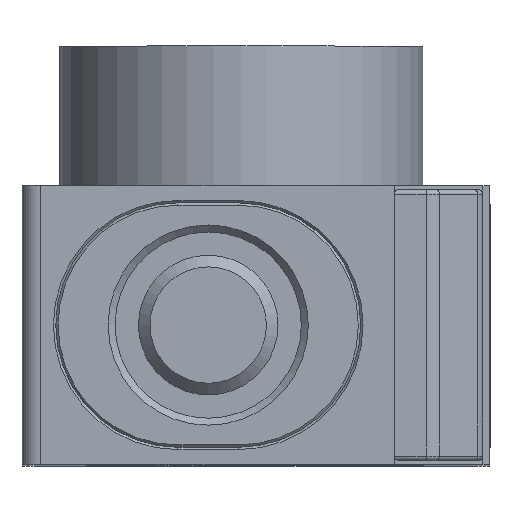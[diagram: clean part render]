
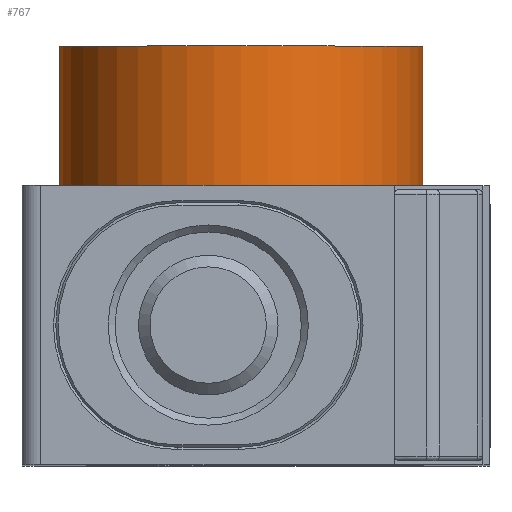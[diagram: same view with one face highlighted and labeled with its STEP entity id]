
A CAD part, top view. The second image highlights one B-rep face of the part: STEP entity #767.
In plain terms, the highlighted free-form (B-spline) face has degree [1, 2] with [2, 9] control points.
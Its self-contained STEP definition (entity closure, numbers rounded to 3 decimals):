
#719=CARTESIAN_POINT('',(-1.3,12.,27.25));
#720=CARTESIAN_POINT('',(-1.3,6.005,27.25));
#721=CARTESIAN_POINT('',(6.525,12.0,27.25));
#722=CARTESIAN_POINT('',(6.525,6.005,27.25));
#723=CARTESIAN_POINT('',(6.525,12.,18.3));
#724=CARTESIAN_POINT('',(6.525,6.005,18.3));
#725=CARTESIAN_POINT('',(6.525,12.0,9.35));
#726=CARTESIAN_POINT('',(6.525,6.005,9.35));
#727=CARTESIAN_POINT('',(-1.3,12.,9.35));
#728=CARTESIAN_POINT('',(-1.3,6.005,9.35));
#729=CARTESIAN_POINT('',(-9.125,12.0,9.35));
#730=CARTESIAN_POINT('',(-9.125,6.005,9.35));
#731=CARTESIAN_POINT('',(-9.125,12.,18.3));
#732=CARTESIAN_POINT('',(-9.125,6.005,18.3));
#733=CARTESIAN_POINT('',(-9.125,12.0,27.25));
#734=CARTESIAN_POINT('',(-9.125,6.005,27.25));
#735=CARTESIAN_POINT('',(-1.3,12.,27.25));
#736=CARTESIAN_POINT('',(-1.3,6.005,27.25));
#744=(BOUNDED_SURFACE()B_SPLINE_SURFACE(1,2,((#719,#721,#723,#725,#727,#729,#731,#733,#735),(#720,#722,#724,#726,#728,#730,#732,#734,#736)),.UNSPECIFIED.,.F.,.T.,.U.)B_SPLINE_SURFACE_WITH_KNOTS((2,2),(3,2,2,2,3),(-0.67,-0.001),(0.0,14.059,28.117,42.176,56.235),.UNSPECIFIED.)GEOMETRIC_REPRESENTATION_ITEM()RATIONAL_B_SPLINE_SURFACE(((1.0,0.707,1.0,0.707,1.0,0.707,1.0,0.707,1.0),(1.0,0.707,1.0,0.707,1.0,0.707,1.0,0.707,1.0)))REPRESENTATION_ITEM('')SURFACE());
#745=CARTESIAN_POINT('',(-1.3,12.,27.25));
#746=VERTEX_POINT('',#745);
#747=CARTESIAN_POINT('',(-1.3,12.,18.3));
#748=DIRECTION('',(0.0,-1.0,0.0));
#749=DIRECTION('',(0.0,0.0,-1.0));
#750=AXIS2_PLACEMENT_3D('',#747,#748,#749);
#751=ELLIPSE('',#750,8.95,7.825);
#752=EDGE_CURVE('',#746,#746,#751,.T.);
#753=ORIENTED_EDGE('',*,*,#752,.T.);
#754=EDGE_LOOP('',(#753));
#755=FACE_OUTER_BOUND('',#754,.T.);
#756=CARTESIAN_POINT('',(-1.3,6.005,27.25));
#757=VERTEX_POINT('',#756);
#758=CARTESIAN_POINT('',(-1.3,6.005,18.3));
#759=DIRECTION('',(0.0,-1.0,0.0));
#760=DIRECTION('',(0.0,0.0,-1.0));
#761=AXIS2_PLACEMENT_3D('',#758,#759,#760);
#762=ELLIPSE('',#761,8.95,7.825);
#763=EDGE_CURVE('',#757,#757,#762,.T.);
#764=ORIENTED_EDGE('',*,*,#763,.F.);
#765=EDGE_LOOP('',(#764));
#766=FACE_BOUND('',#765,.T.);
#767=ADVANCED_FACE('',(#755,#766),#744,.T.);
